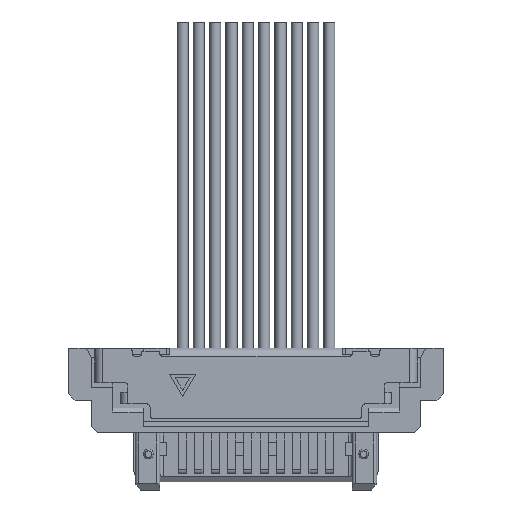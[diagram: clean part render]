
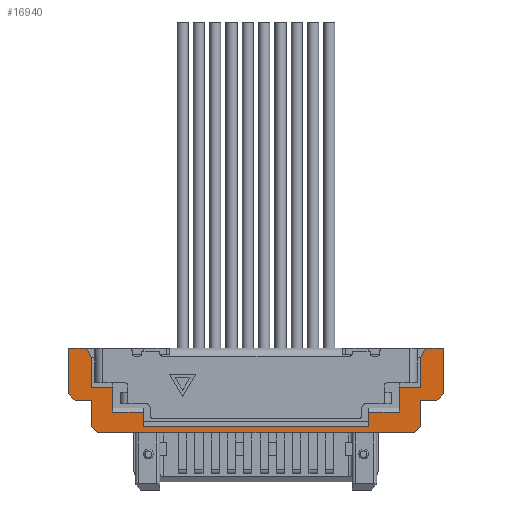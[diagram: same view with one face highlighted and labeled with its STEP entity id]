
A CAD part, top view. The second image highlights one B-rep face of the part: STEP entity #16940.
In plain terms, the highlighted planar face has unit normal (0, 0, 1).
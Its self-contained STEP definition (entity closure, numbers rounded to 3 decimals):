
#9300=CARTESIAN_POINT('',(16.577,50.912,
-0.6));
#9310=VERTEX_POINT('',#9300);
#10760=CARTESIAN_POINT('',(5.077,50.912,
-0.6));
#10770=VERTEX_POINT('',#10760);
#10800=CARTESIAN_POINT('',(5.077,50.912,
-0.6));
#10810=DIRECTION('',(1.,0.,0.));
#10820=VECTOR('',#10810,1.);
#10830=LINE('',#10800,#10820);
#10840=CARTESIAN_POINT('',(5.627,50.912,-0.6)
);
#10850=VERTEX_POINT('',#10840);
#10860=EDGE_CURVE('',#10770,#10850,#10830,.T.);
#13340=CARTESIAN_POINT('',(16.027,50.912,
-0.6));
#13350=VERTEX_POINT('',#13340);
#13380=CARTESIAN_POINT('',(16.577,50.912,
-0.6));
#13390=DIRECTION('',(-1.,0.,0.));
#13400=VECTOR('',#13390,1.);
#13410=LINE('',#13380,#13400);
#13420=EDGE_CURVE('',#9310,#13350,#13410,.T.);
#14970=CARTESIAN_POINT('',(13.361,51.616,
-0.6));
#14980=DIRECTION('',(0.,0.,1.));
#14990=DIRECTION('',(-1.,0.,0.));
#15000=AXIS2_PLACEMENT_3D('',#14970,#14980,#14990);
#15010=PLANE('',#15000);
#15020=ORIENTED_EDGE('',*,*,#13420,.F.);
#15030=CARTESIAN_POINT('',(15.877,51.212,
-0.6));
#15040=DIRECTION('',(0.447,-0.894,0.));
#15050=VECTOR('',#15040,1.);
#15060=LINE('',#15030,#15050);
#15070=CARTESIAN_POINT('',(15.877,51.212,
-0.6));
#15080=VERTEX_POINT('',#15070);
#15090=EDGE_CURVE('',#15080,#13350,#15060,.T.);
#15100=ORIENTED_EDGE('',*,*,#15090,.T.);
#15110=CARTESIAN_POINT('',(15.877,52.112,
-0.6));
#15120=DIRECTION('',(0.,-1.,0.));
#15130=VECTOR('',#15120,1.);
#15140=LINE('',#15110,#15130);
#15150=CARTESIAN_POINT('',(15.877,52.112,
-0.6));
#15160=VERTEX_POINT('',#15150);
#15170=EDGE_CURVE('',#15160,#15080,#15140,.T.);
#15180=ORIENTED_EDGE('',*,*,#15170,.T.);
#15190=CARTESIAN_POINT('',(15.227,52.112,
-0.6));
#15200=DIRECTION('',(1.,0.,0.));
#15210=VECTOR('',#15200,1.);
#15220=LINE('',#15190,#15210);
#15230=CARTESIAN_POINT('',(15.227,52.112,
-0.6));
#15240=VERTEX_POINT('',#15230);
#15250=EDGE_CURVE('',#15240,#15160,#15220,.T.);
#15260=ORIENTED_EDGE('',*,*,#15250,.T.);
#15270=CARTESIAN_POINT('',(15.227,52.872,
-0.6));
#15280=DIRECTION('',(0.,-1.,0.));
#15290=VECTOR('',#15280,1.);
#15300=LINE('',#15270,#15290);
#15310=CARTESIAN_POINT('',(15.227,52.872,
-0.6));
#15320=VERTEX_POINT('',#15310);
#15330=EDGE_CURVE('',#15320,#15240,#15300,.T.);
#15340=ORIENTED_EDGE('',*,*,#15330,.T.);
#15350=CARTESIAN_POINT('',(15.227,52.872,
-0.6));
#15360=DIRECTION('',(-1.,0.,0.));
#15370=VECTOR('',#15360,1.);
#15380=LINE('',#15350,#15370);
#15390=CARTESIAN_POINT('',(14.277,52.872,
-0.6));
#15400=VERTEX_POINT('',#15390);
#15410=EDGE_CURVE('',#15320,#15400,#15380,.T.);
#15420=ORIENTED_EDGE('',*,*,#15410,.F.);
#15430=CARTESIAN_POINT('',(14.277,53.322,
-0.6));
#15440=DIRECTION('',(0.,-1.,0.));
#15450=VECTOR('',#15440,1.);
#15460=LINE('',#15430,#15450);
#15470=CARTESIAN_POINT('',(14.277,53.322,
-0.6));
#15480=VERTEX_POINT('',#15470);
#15490=EDGE_CURVE('',#15480,#15400,#15460,.T.);
#15500=ORIENTED_EDGE('',*,*,#15490,.T.);
#15510=CARTESIAN_POINT('',(7.377,53.322,
-0.6));
#15520=DIRECTION('',(1.,0.,0.));
#15530=VECTOR('',#15520,1.);
#15540=LINE('',#15510,#15530);
#15550=CARTESIAN_POINT('',(7.377,53.322,
-0.6));
#15560=VERTEX_POINT('',#15550);
#15570=EDGE_CURVE('',#15560,#15480,#15540,.T.);
#15580=ORIENTED_EDGE('',*,*,#15570,.T.);
#15590=CARTESIAN_POINT('',(7.377,53.322,
-0.6));
#15600=DIRECTION('',(0.,-1.,0.));
#15610=VECTOR('',#15600,1.);
#15620=LINE('',#15590,#15610);
#15630=CARTESIAN_POINT('',(7.377,52.872,
-0.6));
#15640=VERTEX_POINT('',#15630);
#15650=EDGE_CURVE('',#15560,#15640,#15620,.T.);
#15660=ORIENTED_EDGE('',*,*,#15650,.F.);
#15670=CARTESIAN_POINT('',(6.427,52.872,
-0.6));
#15680=DIRECTION('',(1.,0.,0.));
#15690=VECTOR('',#15680,1.);
#15700=LINE('',#15670,#15690);
#15710=CARTESIAN_POINT('',(6.427,52.872,
-0.6));
#15720=VERTEX_POINT('',#15710);
#15730=EDGE_CURVE('',#15720,#15640,#15700,.T.);
#15740=ORIENTED_EDGE('',*,*,#15730,.T.);
#15750=CARTESIAN_POINT('',(6.427,52.872,
-0.6));
#15760=DIRECTION('',(0.,-1.,0.));
#15770=VECTOR('',#15760,1.);
#15780=LINE('',#15750,#15770);
#15790=CARTESIAN_POINT('',(6.427,52.112,
-0.6));
#15800=VERTEX_POINT('',#15790);
#15810=EDGE_CURVE('',#15720,#15800,#15780,.T.);
#15820=ORIENTED_EDGE('',*,*,#15810,.F.);
#15830=CARTESIAN_POINT('',(6.427,52.112,
-0.6));
#15840=DIRECTION('',(-1.,0.,0.));
#15850=VECTOR('',#15840,1.);
#15860=LINE('',#15830,#15850);
#15870=CARTESIAN_POINT('',(5.777,52.112,
-0.6));
#15880=VERTEX_POINT('',#15870);
#15890=EDGE_CURVE('',#15800,#15880,#15860,.T.);
#15900=ORIENTED_EDGE('',*,*,#15890,.F.);
#15910=CARTESIAN_POINT('',(5.777,52.112,
-0.6));
#15920=DIRECTION('',(0.,-1.,0.));
#15930=VECTOR('',#15920,1.);
#15940=LINE('',#15910,#15930);
#15950=CARTESIAN_POINT('',(5.777,51.212,
-0.6));
#15960=VERTEX_POINT('',#15950);
#15970=EDGE_CURVE('',#15880,#15960,#15940,.T.);
#15980=ORIENTED_EDGE('',*,*,#15970,.F.);
#15990=CARTESIAN_POINT('',(5.627,50.912,
-0.6));
#16000=DIRECTION('',(0.447,0.894,0.));
#16010=VECTOR('',#16000,1.);
#16020=LINE('',#15990,#16010);
#16030=EDGE_CURVE('',#10850,#15960,#16020,.T.);
#16040=ORIENTED_EDGE('',*,*,#16030,.T.);
#16050=ORIENTED_EDGE('',*,*,#10860,.T.);
#16060=CARTESIAN_POINT('',(5.077,52.312,
-0.6));
#16070=DIRECTION('',(0.,-1.,0.));
#16080=VECTOR('',#16070,1.);
#16090=LINE('',#16060,#16080);
#16100=CARTESIAN_POINT('',(5.077,52.312,
-0.6));
#16110=VERTEX_POINT('',#16100);
#16120=EDGE_CURVE('',#16110,#10770,#16090,.T.);
#16130=ORIENTED_EDGE('',*,*,#16120,.T.);
#16140=CARTESIAN_POINT('',(5.277,52.512,
-0.6));
#16150=DIRECTION('',(-0.707,-0.707,0.));
#16160=VECTOR('',#16150,1.);
#16170=LINE('',#16140,#16160);
#16180=CARTESIAN_POINT('',(5.277,52.512,
-0.6));
#16190=VERTEX_POINT('',#16180);
#16200=EDGE_CURVE('',#16190,#16110,#16170,.T.);
#16210=ORIENTED_EDGE('',*,*,#16200,.T.);
#16220=CARTESIAN_POINT('',(5.777,52.512,
-0.6));
#16230=DIRECTION('',(-1.,0.,0.));
#16240=VECTOR('',#16230,1.);
#16250=LINE('',#16220,#16240);
#16260=CARTESIAN_POINT('',(5.777,52.512,
-0.6));
#16270=VERTEX_POINT('',#16260);
#16280=EDGE_CURVE('',#16270,#16190,#16250,.T.);
#16290=ORIENTED_EDGE('',*,*,#16280,.T.);
#16300=CARTESIAN_POINT('',(5.777,52.512,
-0.6));
#16310=DIRECTION('',(0.,1.,0.));
#16320=VECTOR('',#16310,1.);
#16330=LINE('',#16300,#16320);
#16340=CARTESIAN_POINT('',(5.777,53.312,
-0.6));
#16350=VERTEX_POINT('',#16340);
#16360=EDGE_CURVE('',#16270,#16350,#16330,.T.);
#16370=ORIENTED_EDGE('',*,*,#16360,.F.);
#16380=CARTESIAN_POINT('',(5.977,53.512,
-0.6));
#16390=DIRECTION('',(-0.707,-0.707,0.));
#16400=VECTOR('',#16390,1.);
#16410=LINE('',#16380,#16400);
#16420=CARTESIAN_POINT('',(5.977,53.512,
-0.6));
#16430=VERTEX_POINT('',#16420);
#16440=EDGE_CURVE('',#16430,#16350,#16410,.T.);
#16450=ORIENTED_EDGE('',*,*,#16440,.T.);
#16460=CARTESIAN_POINT('',(15.677,53.512,
-0.6));
#16470=DIRECTION('',(-1.,0.,0.));
#16480=VECTOR('',#16470,1.);
#16490=LINE('',#16460,#16480);
#16500=CARTESIAN_POINT('',(15.677,53.512,
-0.6));
#16510=VERTEX_POINT('',#16500);
#16520=EDGE_CURVE('',#16510,#16430,#16490,.T.);
#16530=ORIENTED_EDGE('',*,*,#16520,.T.);
#16540=CARTESIAN_POINT('',(15.877,53.312,-0.6
));
#16550=DIRECTION('',(-0.707,0.707,0.));
#16560=VECTOR('',#16550,1.);
#16570=LINE('',#16540,#16560);
#16580=CARTESIAN_POINT('',(15.877,53.312,-0.6
));
#16590=VERTEX_POINT('',#16580);
#16600=EDGE_CURVE('',#16590,#16510,#16570,.T.);
#16610=ORIENTED_EDGE('',*,*,#16600,.T.);
#16620=CARTESIAN_POINT('',(15.877,52.512,-0.6
));
#16630=DIRECTION('',(0.,1.,0.));
#16640=VECTOR('',#16630,1.);
#16650=LINE('',#16620,#16640);
#16660=CARTESIAN_POINT('',(15.877,52.512,-0.6
));
#16670=VERTEX_POINT('',#16660);
#16680=EDGE_CURVE('',#16670,#16590,#16650,.T.);
#16690=ORIENTED_EDGE('',*,*,#16680,.T.);
#16700=CARTESIAN_POINT('',(15.877,52.512,-0.6
));
#16710=DIRECTION('',(1.,0.,0.));
#16720=VECTOR('',#16710,1.);
#16730=LINE('',#16700,#16720);
#16740=CARTESIAN_POINT('',(16.377,52.512,
-0.6));
#16750=VERTEX_POINT('',#16740);
#16760=EDGE_CURVE('',#16670,#16750,#16730,.T.);
#16770=ORIENTED_EDGE('',*,*,#16760,.F.);
#16780=CARTESIAN_POINT('',(16.577,52.312,
-0.6));
#16790=DIRECTION('',(-0.707,0.707,0.));
#16800=VECTOR('',#16790,1.);
#16810=LINE('',#16780,#16800);
#16820=CARTESIAN_POINT('',(16.577,52.312,
-0.6));
#16830=VERTEX_POINT('',#16820);
#16840=EDGE_CURVE('',#16830,#16750,#16810,.T.);
#16850=ORIENTED_EDGE('',*,*,#16840,.T.);
#16860=CARTESIAN_POINT('',(16.577,50.912,
-0.6));
#16870=DIRECTION('',(0.,1.,0.));
#16880=VECTOR('',#16870,1.);
#16890=LINE('',#16860,#16880);
#16900=EDGE_CURVE('',#9310,#16830,#16890,.T.);
#16910=ORIENTED_EDGE('',*,*,#16900,.T.);
#16920=EDGE_LOOP('',(#16910,#16850,#16770,#16690,#16610,#16530,#16450,
#16370,#16290,#16210,#16130,#16050,#16040,#15980,#15900,#15820,#15740,
#15660,#15580,#15500,#15420,#15340,#15260,#15180,#15100,#15020));
#16930=FACE_OUTER_BOUND('',#16920,.T.);
#16940=ADVANCED_FACE('',(#16930),#15010,.T.);
